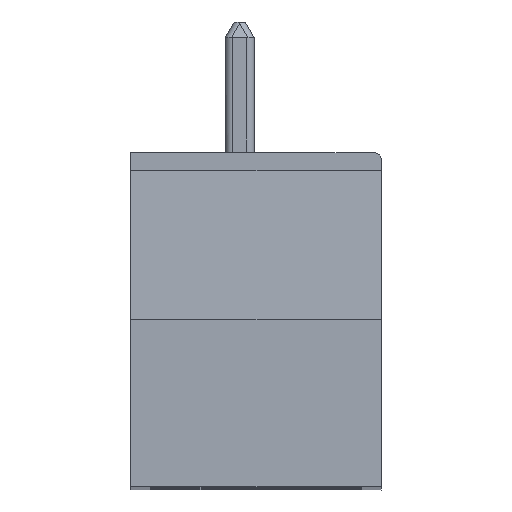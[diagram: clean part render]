
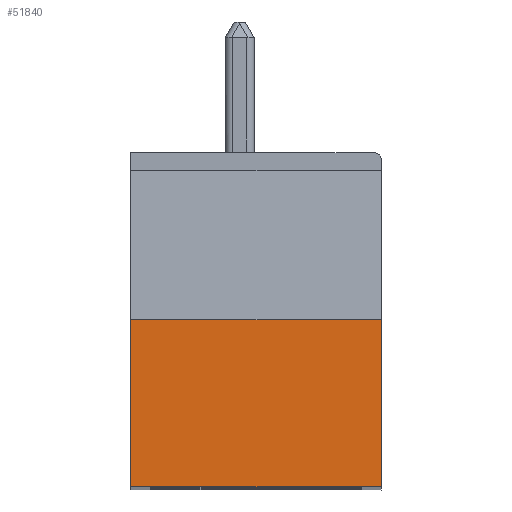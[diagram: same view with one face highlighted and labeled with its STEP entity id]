
A CAD part, top view. The second image highlights one B-rep face of the part: STEP entity #51840.
In plain terms, the highlighted planar face has unit normal (0, 0, 1).
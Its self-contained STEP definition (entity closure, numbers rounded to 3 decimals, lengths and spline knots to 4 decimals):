
#18649 = CARTESIAN_POINT ( 'NONE',  ( 6.9, -8.45, 0. ) ) ;
#18650 = CARTESIAN_POINT ( 'NONE',  ( 6.9, -9.9834, 0. ) ) ;
#18651 = B_SPLINE_CURVE_WITH_KNOTS ( 'NONE', 3,
 ( #18650, #18649, #18716, #18715 ),
 .UNSPECIFIED., .F., .F.,
 ( 4, 4 ),
 ( 0., 1. ),
 .UNSPECIFIED. ) ;
#18661 = CARTESIAN_POINT ( 'NONE',  ( 6.9, -9.9834, 0. ) ) ;
#18715 = CARTESIAN_POINT ( 'NONE',  ( 6.9, -5.3834, 0. ) ) ;
#18716 = CARTESIAN_POINT ( 'NONE',  ( 6.9, -6.9167, 0. ) ) ;
#20907 = DIRECTION ( 'NONE',  ( 0., -1., 0. ) ) ;
#20908 = VECTOR ( 'NONE', #20907, 1000. ) ;
#20909 = CARTESIAN_POINT ( 'NONE',  ( 0., -7.6834, 0. ) ) ;
#20910 = LINE ( 'NONE', #20909, #20908 ) ;
#20981 = CARTESIAN_POINT ( 'NONE',  ( 0., -9.9834, 0. ) ) ;
#24113 = DIRECTION ( 'NONE',  ( -1., 0., 0. ) ) ;
#24114 = VECTOR ( 'NONE', #24113, 1000. ) ;
#24115 = CARTESIAN_POINT ( 'NONE',  ( 0., -9.9834, 0. ) ) ;
#24116 = LINE ( 'NONE', #24115, #24114 ) ;
#25815 = VERTEX_POINT ( 'NONE', #18661 ) ;
#25876 = EDGE_CURVE ( 'NONE', #25815, #71041, #18651, .T. ) ;
#26425 = DIRECTION ( 'NONE',  ( 0., 0., 1. ) ) ;
#26427 = CARTESIAN_POINT ( 'NONE',  ( 0., -5.3834, 0. ) ) ;
#26428 = AXIS2_PLACEMENT_3D ( 'NONE', #26427, #26425, #26479 ) ;
#26429 = PLANE ( 'NONE',  #26428 ) ;
#26430 = FACE_OUTER_BOUND ( 'NONE', #51516, .T. ) ;
#26479 = DIRECTION ( 'NONE',  ( 0., -1., 0. ) ) ;
#38169 = EDGE_CURVE ( 'NONE', #71088, #38346, #20910, .T. ) ;
#38346 = VERTEX_POINT ( 'NONE', #20981 ) ;
#49393 = ORIENTED_EDGE ( 'NONE', *, *, #25876, .T. ) ;
#49631 = CARTESIAN_POINT ( 'NONE',  ( 6.9, -5.3834, 0. ) ) ;
#49682 = DIRECTION ( 'NONE',  ( -1., 0., 0. ) ) ;
#49683 = VECTOR ( 'NONE', #49682, 1000. ) ;
#49684 = CARTESIAN_POINT ( 'NONE',  ( 3.45, -5.3834, 0. ) ) ;
#49685 = LINE ( 'NONE', #49684, #49683 ) ;
#49694 = CARTESIAN_POINT ( 'NONE',  ( 0., -5.3834, 0. ) ) ;
#49884 = EDGE_CURVE ( 'NONE', #25815, #38346, #24116, .T. ) ;
#51385 = ORIENTED_EDGE ( 'NONE', *, *, #49884, .F. ) ;
#51516 = EDGE_LOOP ( 'NONE', ( #51623, #51689, #51385, #49393 ) ) ;
#51623 = ORIENTED_EDGE ( 'NONE', *, *, #71095, .T. ) ;
#51689 = ORIENTED_EDGE ( 'NONE', *, *, #38169, .T. ) ;
#51840 = ADVANCED_FACE ( 'NONE', ( #26430 ), #26429, .T. ) ;
#71041 = VERTEX_POINT ( 'NONE', #49631 ) ;
#71088 = VERTEX_POINT ( 'NONE', #49694 ) ;
#71095 = EDGE_CURVE ( 'NONE', #71041, #71088, #49685, .T. ) ;
